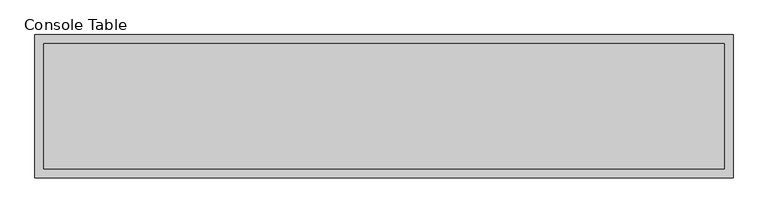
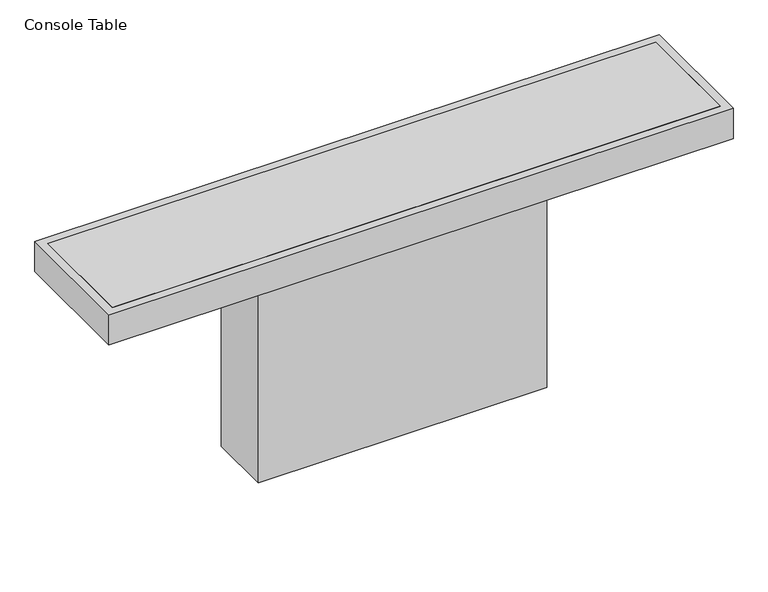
"""IFC4 building model written with IfcOpenShell, lengths in millimetres: furniture geometry."""

import ifcopenshell
import ifcopenshell.guid

model = None  # the IFC model being written
_history = None  # IfcOwnerHistory: only IFC2X3 demands one
_inside = {}  # id of a spatial element -> (the spatial element, [elements in it])
_under = {}  # id of a project, library or spatial element -> (it, [spatial elements below it])
_declared = {}  # id of a project -> (the project, [libraries it declares])
_typed = {}  # id of a type object -> (the type object, [elements of that type])
_made_of = {}  # id of a material, layer set ... -> (it, [elements and type objects made of it])


def new_model(schema):
    """Start an empty IFC model of exactly this schema.

    Asked for "IFC4X3", IfcOpenShell would pick the latest addendum, in which some entities
    have other attributes; the version numbers below select the first issue.
    IFC2X3 requires an IfcOwnerHistory on every rooted entity: one is made here for all.
    """
    global model, _history
    if schema == "IFC4X3":
        model = ifcopenshell.file(schema_version=(4, 3, 0, 0))
    else:
        model = ifcopenshell.file(schema=schema)
    _inside.clear()
    _under.clear()
    _declared.clear()
    _typed.clear()
    _made_of.clear()
    _history = None
    if model.schema == "IFC2X3":
        org = make("IfcOrganization", Name="unknown")
        user = make(
            "IfcPersonAndOrganization",
            ThePerson=make("IfcPerson", FamilyName="unknown"),
            TheOrganization=org,
        )
        app = make(
            "IfcApplication",
            ApplicationDeveloper=org,
            Version="unknown",
            ApplicationFullName="unknown",
            ApplicationIdentifier="unknown",
        )
        _history = make(
            "IfcOwnerHistory",
            OwningUser=user,
            OwningApplication=app,
            ChangeAction="ADDED",
            CreationDate=0,
        )
    return model


def make(cls, **values):
    """One entity of the class cls with the attributes given. An attribute that is None is left unset."""
    return model.create_entity(
        cls, **{name: value for name, value in values.items() if value is not None}
    )


def rooted(cls, **values):
    """An entity with a GlobalId (a new one), such as an element, a storey or a relation."""
    return make(cls, GlobalId=ifcopenshell.guid.new(), OwnerHistory=_history, **values)


def si_unit(unit_type, name, prefix=None):
    """IfcSIUnit, for example si_unit("LENGTHUNIT", "METRE", prefix="MILLI")."""
    return make("IfcSIUnit", UnitType=unit_type, Prefix=prefix, Name=name)


def assignment(units):
    """IfcUnitAssignment: the units of a project."""
    return None if units is None else make("IfcUnitAssignment", Units=units)


def point(xyz):
    """IfcCartesianPoint."""
    return None if xyz is None else make("IfcCartesianPoint", Coordinates=xyz)


def direction(xyz):
    """IfcDirection."""
    return None if xyz is None else make("IfcDirection", DirectionRatios=xyz)


def frame(location, z_axis=None, x_axis=None):
    """IfcAxis2Placement3D, a coordinate frame: its origin and axes. An axis left out is left unset."""
    return make(
        "IfcAxis2Placement3D",
        Location=point(location),
        Axis=direction(z_axis),
        RefDirection=direction(x_axis),
    )


def origin():
    """The frame at (0, 0, 0) with its axes left unset."""
    return frame((0.0, 0.0, 0.0))


def origin_with_axes():
    """The frame at (0, 0, 0) with the z axis (0, 0, 1) and the x axis (1, 0, 0) written out."""
    return frame((0.0, 0.0, 0.0), z_axis=(0.0, 0.0, 1.0), x_axis=(1.0, 0.0, 0.0))


def place(relative_to, where):
    """IfcLocalPlacement: puts the frame where relative to a parent placement (None: the world)."""
    return make(
        "IfcLocalPlacement", PlacementRelTo=relative_to, RelativePlacement=where
    )


def context(
    kind, dimensions, precision=None, world=None, true_north=None, identifier=None
):
    """IfcGeometricRepresentationContext, for example the 3D "Model" context."""
    return make(
        "IfcGeometricRepresentationContext",
        ContextIdentifier=identifier,
        ContextType=kind,
        CoordinateSpaceDimension=dimensions,
        Precision=precision,
        WorldCoordinateSystem=world,
        TrueNorth=true_north,
    )


def project(units=None, contexts=None):
    """IfcProject with its units and contexts."""
    return rooted(
        "IfcProject",
        Name="project",
        RepresentationContexts=contexts,
        UnitsInContext=assignment(units),
    )


def spatial(cls, under=None, at=None, **own):
    """A site, building, storey or space (cls), placed at a placement, below another one or the project."""
    s = rooted(cls, ObjectPlacement=at, **own)
    if under is not None:
        _under.setdefault(under.id(), (under, []))[1].append(s)
    return s


def polyline(points):
    """IfcPolyline through the points."""
    return make("IfcPolyline", Points=[point(p) for p in points])


def outline(outer, holes=None, kind="AREA"):
    """IfcArbitraryClosedProfileDef: a profile drawn as a closed curve; with holes, ...WithVoids."""
    if holes is None:
        return make("IfcArbitraryClosedProfileDef", ProfileType=kind, OuterCurve=outer)
    return make(
        "IfcArbitraryProfileDefWithVoids",
        ProfileType=kind,
        OuterCurve=outer,
        InnerCurves=holes,
    )


def extrude(swept, where, along, depth):
    """IfcExtrudedAreaSolid: the profile swept, set in the frame where, extruded along a direction by depth."""
    return make(
        "IfcExtrudedAreaSolid",
        SweptArea=swept,
        Position=where,
        ExtrudedDirection=direction(along),
        Depth=depth,
    )


def shape(context_of_items, identifier, shape_type, items):
    """IfcShapeRepresentation: the items that make up one representation, for example the "Body"."""
    return make(
        "IfcShapeRepresentation",
        ContextOfItems=context_of_items,
        RepresentationIdentifier=identifier,
        RepresentationType=shape_type,
        Items=items,
    )


def source(mapping_origin, context_of_items, identifier, shape_type, items):
    """IfcRepresentationMap: a shape defined once, which mapped items show again and again."""
    return make(
        "IfcRepresentationMap",
        MappingOrigin=mapping_origin,
        MappedRepresentation=shape(context_of_items, identifier, shape_type, items),
    )


def transform(
    local_origin,
    x_axis=None,
    y_axis=None,
    z_axis=None,
    scale=None,
    scale2=None,
    scale3=None,
    uniform=True,
):
    """IfcCartesianTransformationOperator3D, or its non-uniform kind. x_axis, y_axis, z_axis: its Axis1, 2, 3."""
    if uniform:
        return make(
            "IfcCartesianTransformationOperator3D",
            Axis1=direction(x_axis),
            Axis2=direction(y_axis),
            LocalOrigin=point(local_origin),
            Scale=scale,
            Axis3=direction(z_axis),
        )
    return make(
        "IfcCartesianTransformationOperator3DnonUniform",
        Axis1=direction(x_axis),
        Axis2=direction(y_axis),
        LocalOrigin=point(local_origin),
        Scale=scale,
        Axis3=direction(z_axis),
        Scale2=scale2,
        Scale3=scale3,
    )


def mapped(mapping_source, mapping_target):
    """IfcMappedItem: shows the shape of a source again, moved by a transform."""
    return make(
        "IfcMappedItem", MappingSource=mapping_source, MappingTarget=mapping_target
    )


def made_of(thing, what):
    """Note that an element or type object is made of a material, layer set ...; save() writes the relation."""
    if what is not None:
        _made_of.setdefault(what.id(), (what, []))[1].append(thing)
    return thing


def element(
    cls,
    number,
    at=None,
    inside=None,
    cuts=None,
    type_object=None,
    material=None,
    context=None,
    identifier="Body",
    shape_type=None,
    held_by="IfcProductDefinitionShape",
    body=None,
    shapes=None,
    **own,
):
    """One element of the class cls, such as IfcWall. Its Tag is "e" and its number.

    at: its placement. inside: the storey or other place that contains it. cuts: it is an
    opening in that element (IfcRelVoidsElement). A single representation is given by context,
    identifier, shape_type and body (its items); several are given by shapes. held_by: the class
    of the entity that holds the representations. save() writes the other relations.
    """
    e = rooted(cls, Tag="e%d" % number, ObjectPlacement=at, **own)
    if body is not None:
        shapes = [shape(context, identifier, shape_type, body)]
    if shapes is not None:
        e.Representation = make(held_by, Representations=shapes)
    if inside is not None:
        _inside.setdefault(inside.id(), (inside, []))[1].append(e)
    if cuts is not None:
        rooted(
            "IfcRelVoidsElement", RelatingBuildingElement=cuts, RelatedOpeningElement=e
        )
    if type_object is not None:
        _typed.setdefault(type_object.id(), (type_object, []))[1].append(e)
    return made_of(e, material)


def aggregate(whole, parts):
    """IfcRelAggregates: a whole, such as a stair, and the parts it consists of."""
    return rooted("IfcRelAggregates", RelatingObject=whole, RelatedObjects=parts)


def save(model, path):
    """Write the relations noted so far, then the file.

    IfcRelAggregates (storeys below a building ...), IfcRelContainedInSpatialStructure (elements
    in a storey), IfcRelDefinesByType, IfcRelAssociatesMaterial and IfcRelDeclares: one each for
    every whole, place, type object, material and project.
    """
    for whole, parts in _under.values():
        aggregate(whole, parts)
    for where, things in _inside.values():
        rooted(
            "IfcRelContainedInSpatialStructure",
            RelatedElements=things,
            RelatingStructure=where,
        )
    for kind, things in _typed.values():
        rooted("IfcRelDefinesByType", RelatedObjects=things, RelatingType=kind)
    for what, things in _made_of.values():
        rooted("IfcRelAssociatesMaterial", RelatedObjects=things, RelatingMaterial=what)
    for by, libraries in _declared.values():
        rooted("IfcRelDeclares", RelatingContext=by, RelatedDefinitions=libraries)
    model.write(path)


def console_table_cdf4f12f(model_context):
    return source(origin(), model_context, "Body", "SweptSolid", [
        extrude(outline(polyline([(457.2, 101.6), (457.2, -101.6), (-457.2, -101.6), (-457.2, 101.6), (457.2, 101.6)])), origin_with_axes(), (0.0, 0.0, 1.0), 787.4),
        extrude(outline(polyline([(-965.2, -177.8), (-965.2, 177.8), (965.2, 177.8), (965.2, -177.8), (-965.2, -177.8)])), frame((0.0, 0.0, 787.4), z_axis=(0.0, 0.0, 1.0), x_axis=(1.0, 0.0, 0.0)), (0.0, 0.0, 1.0), 25.4),
        extrude(outline(polyline([(990.6, 203.2), (990.6, -203.2), (-990.6, -203.2), (-990.6, 203.2), (990.6, 203.2)]), holes=[polyline([(965.2, 177.8), (-965.2, 177.8), (-965.2, -177.8), (965.2, -177.8), (965.2, 177.8)])]), frame((0.0, 0.0, 711.2), z_axis=(0.0, 0.0, 1.0), x_axis=(1.0, 0.0, 0.0)), (0.0, 0.0, 1.0), 101.6),
    ])


if __name__ == "__main__":
    model = new_model("IFC4")
    model_context = context("Model", 3, world=origin())
    ifc_project = project(units=[si_unit("LENGTHUNIT", "METRE", prefix="MILLI")], contexts=[model_context])
    site = spatial("IfcSite", under=ifc_project)
    building = spatial("IfcBuilding", under=site)
    placement = place(None, origin())
    console_table_shape = console_table_cdf4f12f(model_context)
    element("IfcFurniture", 1, ObjectType="Console Table : 78\" L x 16\" W x 32\" H", at=placement, inside=building, context=model_context, shape_type="MappedRepresentation", body=[
        mapped(console_table_shape, transform((0.0, 0.0, 0.0), x_axis=(1.0, 0.0, 0.0), y_axis=(0.0, 1.0, 0.0), z_axis=(0.0, 0.0, 1.0))),
    ])
    save(model, "model.ifc")
